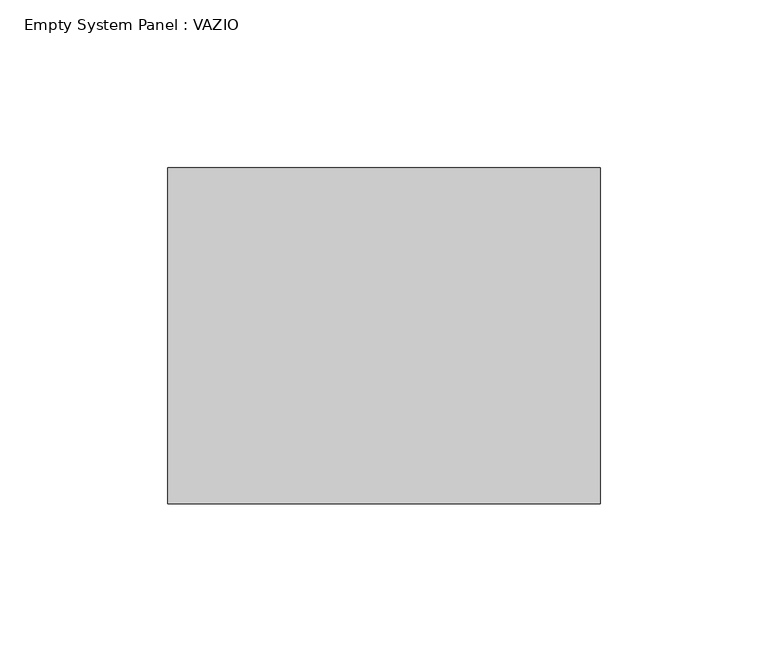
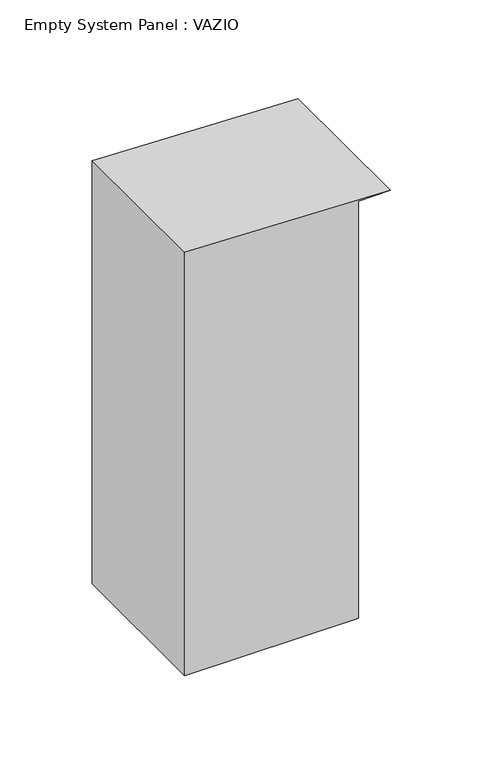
"""IFC4 building model written with IfcOpenShell, lengths in millimetres: plate geometry, Empty System Panel : VAZIO."""

import ifcopenshell
import ifcopenshell.guid

model = None  # the IFC model being written
_history = None  # IfcOwnerHistory: only IFC2X3 demands one
_inside = {}  # id of a spatial element -> (the spatial element, [elements in it])
_under = {}  # id of a project, library or spatial element -> (it, [spatial elements below it])
_declared = {}  # id of a project -> (the project, [libraries it declares])
_typed = {}  # id of a type object -> (the type object, [elements of that type])
_made_of = {}  # id of a material, layer set ... -> (it, [elements and type objects made of it])


def new_model(schema):
    """Start an empty IFC model of exactly this schema.

    Asked for "IFC4X3", IfcOpenShell would pick the latest addendum, in which some entities
    have other attributes; the version numbers below select the first issue.
    IFC2X3 requires an IfcOwnerHistory on every rooted entity: one is made here for all.
    """
    global model, _history
    if schema == "IFC4X3":
        model = ifcopenshell.file(schema_version=(4, 3, 0, 0))
    else:
        model = ifcopenshell.file(schema=schema)
    _inside.clear()
    _under.clear()
    _declared.clear()
    _typed.clear()
    _made_of.clear()
    _history = None
    if model.schema == "IFC2X3":
        org = make("IfcOrganization", Name="unknown")
        user = make(
            "IfcPersonAndOrganization",
            ThePerson=make("IfcPerson", FamilyName="unknown"),
            TheOrganization=org,
        )
        app = make(
            "IfcApplication",
            ApplicationDeveloper=org,
            Version="unknown",
            ApplicationFullName="unknown",
            ApplicationIdentifier="unknown",
        )
        _history = make(
            "IfcOwnerHistory",
            OwningUser=user,
            OwningApplication=app,
            ChangeAction="ADDED",
            CreationDate=0,
        )
    return model


def make(cls, **values):
    """One entity of the class cls with the attributes given. An attribute that is None is left unset."""
    return model.create_entity(
        cls, **{name: value for name, value in values.items() if value is not None}
    )


def rooted(cls, **values):
    """An entity with a GlobalId (a new one), such as an element, a storey or a relation."""
    return make(cls, GlobalId=ifcopenshell.guid.new(), OwnerHistory=_history, **values)


def si_unit(unit_type, name, prefix=None):
    """IfcSIUnit, for example si_unit("LENGTHUNIT", "METRE", prefix="MILLI")."""
    return make("IfcSIUnit", UnitType=unit_type, Prefix=prefix, Name=name)


def assignment(units):
    """IfcUnitAssignment: the units of a project."""
    return None if units is None else make("IfcUnitAssignment", Units=units)


def point(xyz):
    """IfcCartesianPoint."""
    return None if xyz is None else make("IfcCartesianPoint", Coordinates=xyz)


def direction(xyz):
    """IfcDirection."""
    return None if xyz is None else make("IfcDirection", DirectionRatios=xyz)


def frame(location, z_axis=None, x_axis=None):
    """IfcAxis2Placement3D, a coordinate frame: its origin and axes. An axis left out is left unset."""
    return make(
        "IfcAxis2Placement3D",
        Location=point(location),
        Axis=direction(z_axis),
        RefDirection=direction(x_axis),
    )


def frame_2d(location, x_axis=None):
    """IfcAxis2Placement2D, a coordinate frame in the plane: its origin and x axis."""
    return make(
        "IfcAxis2Placement2D", Location=point(location), RefDirection=direction(x_axis)
    )


def origin():
    """The frame at (0, 0, 0) with its axes left unset."""
    return frame((0.0, 0.0, 0.0))


def place(relative_to, where):
    """IfcLocalPlacement: puts the frame where relative to a parent placement (None: the world)."""
    return make(
        "IfcLocalPlacement", PlacementRelTo=relative_to, RelativePlacement=where
    )


def context(
    kind, dimensions, precision=None, world=None, true_north=None, identifier=None
):
    """IfcGeometricRepresentationContext, for example the 3D "Model" context."""
    return make(
        "IfcGeometricRepresentationContext",
        ContextIdentifier=identifier,
        ContextType=kind,
        CoordinateSpaceDimension=dimensions,
        Precision=precision,
        WorldCoordinateSystem=world,
        TrueNorth=true_north,
    )


def project(units=None, contexts=None):
    """IfcProject with its units and contexts."""
    return rooted(
        "IfcProject",
        Name="project",
        RepresentationContexts=contexts,
        UnitsInContext=assignment(units),
    )


def spatial(cls, under=None, at=None, **own):
    """A site, building, storey or space (cls), placed at a placement, below another one or the project."""
    s = rooted(cls, ObjectPlacement=at, **own)
    if under is not None:
        _under.setdefault(under.id(), (under, []))[1].append(s)
    return s


def polyline(points):
    """IfcPolyline through the points."""
    return make("IfcPolyline", Points=[point(p) for p in points])


def circle_curve(where, radius):
    """IfcCircle in the frame where."""
    return make("IfcCircle", Position=where, Radius=radius)


def trimmed(basis, trim1, trim2, sense, master):
    """IfcTrimmedCurve: the piece of a basis curve between two trims."""
    return make(
        "IfcTrimmedCurve",
        BasisCurve=basis,
        Trim1=trim1,
        Trim2=trim2,
        SenseAgreement=sense,
        MasterRepresentation=master,
    )


def segment(curve, same_sense, transition):
    """IfcCompositeCurveSegment."""
    return make(
        "IfcCompositeCurveSegment",
        Transition=transition,
        SameSense=same_sense,
        ParentCurve=curve,
    )


def composite_curve(segments, self_intersect=None):
    """IfcCompositeCurve: segments joined end to end."""
    return make("IfcCompositeCurve", Segments=segments, SelfIntersect=self_intersect)


def outline(outer, holes=None, kind="AREA"):
    """IfcArbitraryClosedProfileDef: a profile drawn as a closed curve; with holes, ...WithVoids."""
    if holes is None:
        return make("IfcArbitraryClosedProfileDef", ProfileType=kind, OuterCurve=outer)
    return make(
        "IfcArbitraryProfileDefWithVoids",
        ProfileType=kind,
        OuterCurve=outer,
        InnerCurves=holes,
    )


def extrude(swept, where, along, depth):
    """IfcExtrudedAreaSolid: the profile swept, set in the frame where, extruded along a direction by depth."""
    return make(
        "IfcExtrudedAreaSolid",
        SweptArea=swept,
        Position=where,
        ExtrudedDirection=direction(along),
        Depth=depth,
    )


def shape(context_of_items, identifier, shape_type, items):
    """IfcShapeRepresentation: the items that make up one representation, for example the "Body"."""
    return make(
        "IfcShapeRepresentation",
        ContextOfItems=context_of_items,
        RepresentationIdentifier=identifier,
        RepresentationType=shape_type,
        Items=items,
    )


def source(mapping_origin, context_of_items, identifier, shape_type, items):
    """IfcRepresentationMap: a shape defined once, which mapped items show again and again."""
    return make(
        "IfcRepresentationMap",
        MappingOrigin=mapping_origin,
        MappedRepresentation=shape(context_of_items, identifier, shape_type, items),
    )


def transform(
    local_origin,
    x_axis=None,
    y_axis=None,
    z_axis=None,
    scale=None,
    scale2=None,
    scale3=None,
    uniform=True,
):
    """IfcCartesianTransformationOperator3D, or its non-uniform kind. x_axis, y_axis, z_axis: its Axis1, 2, 3."""
    if uniform:
        return make(
            "IfcCartesianTransformationOperator3D",
            Axis1=direction(x_axis),
            Axis2=direction(y_axis),
            LocalOrigin=point(local_origin),
            Scale=scale,
            Axis3=direction(z_axis),
        )
    return make(
        "IfcCartesianTransformationOperator3DnonUniform",
        Axis1=direction(x_axis),
        Axis2=direction(y_axis),
        LocalOrigin=point(local_origin),
        Scale=scale,
        Axis3=direction(z_axis),
        Scale2=scale2,
        Scale3=scale3,
    )


def mapped(mapping_source, mapping_target):
    """IfcMappedItem: shows the shape of a source again, moved by a transform."""
    return make(
        "IfcMappedItem", MappingSource=mapping_source, MappingTarget=mapping_target
    )


def made_of(thing, what):
    """Note that an element or type object is made of a material, layer set ...; save() writes the relation."""
    if what is not None:
        _made_of.setdefault(what.id(), (what, []))[1].append(thing)
    return thing


def element(
    cls,
    number,
    at=None,
    inside=None,
    cuts=None,
    type_object=None,
    material=None,
    context=None,
    identifier="Body",
    shape_type=None,
    held_by="IfcProductDefinitionShape",
    body=None,
    shapes=None,
    **own,
):
    """One element of the class cls, such as IfcWall. Its Tag is "e" and its number.

    at: its placement. inside: the storey or other place that contains it. cuts: it is an
    opening in that element (IfcRelVoidsElement). A single representation is given by context,
    identifier, shape_type and body (its items); several are given by shapes. held_by: the class
    of the entity that holds the representations. save() writes the other relations.
    """
    e = rooted(cls, Tag="e%d" % number, ObjectPlacement=at, **own)
    if body is not None:
        shapes = [shape(context, identifier, shape_type, body)]
    if shapes is not None:
        e.Representation = make(held_by, Representations=shapes)
    if inside is not None:
        _inside.setdefault(inside.id(), (inside, []))[1].append(e)
    if cuts is not None:
        rooted(
            "IfcRelVoidsElement", RelatingBuildingElement=cuts, RelatedOpeningElement=e
        )
    if type_object is not None:
        _typed.setdefault(type_object.id(), (type_object, []))[1].append(e)
    return made_of(e, material)


def aggregate(whole, parts):
    """IfcRelAggregates: a whole, such as a stair, and the parts it consists of."""
    return rooted("IfcRelAggregates", RelatingObject=whole, RelatedObjects=parts)


def save(model, path):
    """Write the relations noted so far, then the file.

    IfcRelAggregates (storeys below a building ...), IfcRelContainedInSpatialStructure (elements
    in a storey), IfcRelDefinesByType, IfcRelAssociatesMaterial and IfcRelDeclares: one each for
    every whole, place, type object, material and project.
    """
    for whole, parts in _under.values():
        aggregate(whole, parts)
    for where, things in _inside.values():
        rooted(
            "IfcRelContainedInSpatialStructure",
            RelatedElements=things,
            RelatingStructure=where,
        )
    for kind, things in _typed.values():
        rooted("IfcRelDefinesByType", RelatedObjects=things, RelatingType=kind)
    for what, things in _made_of.values():
        rooted("IfcRelAssociatesMaterial", RelatedObjects=things, RelatingMaterial=what)
    for by, libraries in _declared.values():
        rooted("IfcRelDeclares", RelatingContext=by, RelatedDefinitions=libraries)
    model.write(path)


def empty_system_panel_vazio_8ffa4d17(model_context):
    return source(origin(), model_context, "Body", "SweptSolid", [
        extrude(outline(composite_curve([segment(polyline([(0.0, -64.3902439), (0.0, 44.3902439), (275.5650592, 44.3902439), (275.5650592, 64.3902439)]), True, "CONTINUOUS"), segment(trimmed(circle_curve(frame_2d((-2933.8559746, -104.3902439)), 3213.8559746), [point((275.5650592, 64.3902439))], [point((279.7510682, -64.3902439))], False, "CARTESIAN"), True, "CONTINUOUS"), segment(polyline([(279.7510682, -64.3902439), (0.0, -64.3902439)]), True, "CONTINUOUS")], self_intersect=False)), frame((0.0, -50.0, 0.0), z_axis=(0.0, 1.0, 0.0), x_axis=(0.0, 0.0, 1.0)), (0.0, 0.0, 1.0), 100.0),
    ])


if __name__ == "__main__":
    model = new_model("IFC4")
    model_context = context("Model", 3, world=origin())
    ifc_project = project(units=[si_unit("LENGTHUNIT", "METRE", prefix="MILLI")], contexts=[model_context])
    site = spatial("IfcSite", under=ifc_project)
    building = spatial("IfcBuilding", under=site)
    placement = place(None, origin())
    empty_system_panel_vazio_shape = empty_system_panel_vazio_8ffa4d17(model_context)
    element("IfcPlate", 1, ObjectType="Empty System Panel : VAZIO", at=placement, inside=building, context=model_context, shape_type="MappedRepresentation", body=[
        mapped(empty_system_panel_vazio_shape, transform((0.0, 0.0, 0.0), x_axis=(1.0, 0.0, 0.0), y_axis=(0.0, 1.0, 0.0), z_axis=(0.0, 0.0, 1.0))),
    ])
    save(model, "model.ifc")
